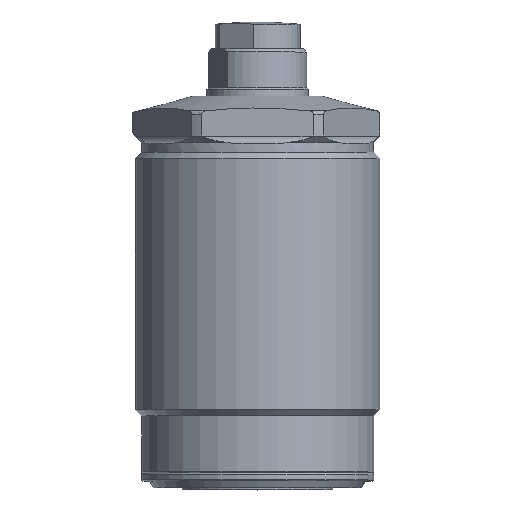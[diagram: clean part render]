
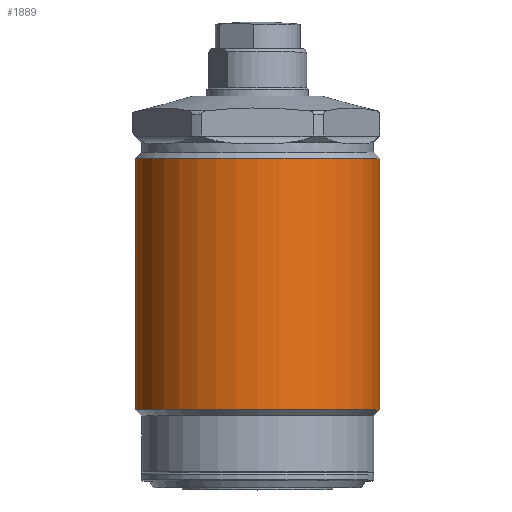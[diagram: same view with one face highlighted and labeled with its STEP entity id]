
A CAD part, top view. The second image highlights one B-rep face of the part: STEP entity #1889.
In plain terms, the highlighted cylindrical face has radius 18 mm (diameter 36 mm), a full revolution.
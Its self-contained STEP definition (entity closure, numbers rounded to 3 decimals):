
#1852=CYLINDRICAL_SURFACE('',#6009,18.);
#1889=ADVANCED_FACE('',(#2298,#2299),#1852,.T.);
#2298=FACE_BOUND('',#2391,.T.);
#2299=FACE_BOUND('',#2392,.T.);
#2391=EDGE_LOOP('',(#2795));
#2392=EDGE_LOOP('',(#2796));
#2703=CIRCLE('',#6005,18.);
#2705=CIRCLE('',#6008,18.);
#2795=ORIENTED_EDGE('',*,*,#4532,.F.);
#2796=ORIENTED_EDGE('',*,*,#4530,.T.);
#4086=VERTEX_POINT('',#7319);
#4088=VERTEX_POINT('',#7324);
#4530=EDGE_CURVE('',#4086,#4086,#2703,.T.);
#4532=EDGE_CURVE('',#4088,#4088,#2705,.T.);
#6005=AXIS2_PLACEMENT_3D('',#7318,#6316,#6317);
#6008=AXIS2_PLACEMENT_3D('',#7323,#6322,#6323);
#6009=AXIS2_PLACEMENT_3D('',#7325,#6324,#6325);
#6316=DIRECTION('',(0.,-1.,0.));
#6317=DIRECTION('',(0.,0.,-1.));
#6322=DIRECTION('',(0.,-1.,0.));
#6323=DIRECTION('',(0.,0.,-1.));
#6324=DIRECTION('',(0.,-1.,0.));
#6325=DIRECTION('',(0.,0.,-1.));
#7318=CARTESIAN_POINT('',(-11.03,48.8,0.));
#7319=CARTESIAN_POINT('',(-11.03,48.8,-18.));
#7323=CARTESIAN_POINT('',(-11.03,11.825,0.));
#7324=CARTESIAN_POINT('',(-11.03,11.825,-18.));
#7325=CARTESIAN_POINT('',(-11.03,-3.381,0.));
